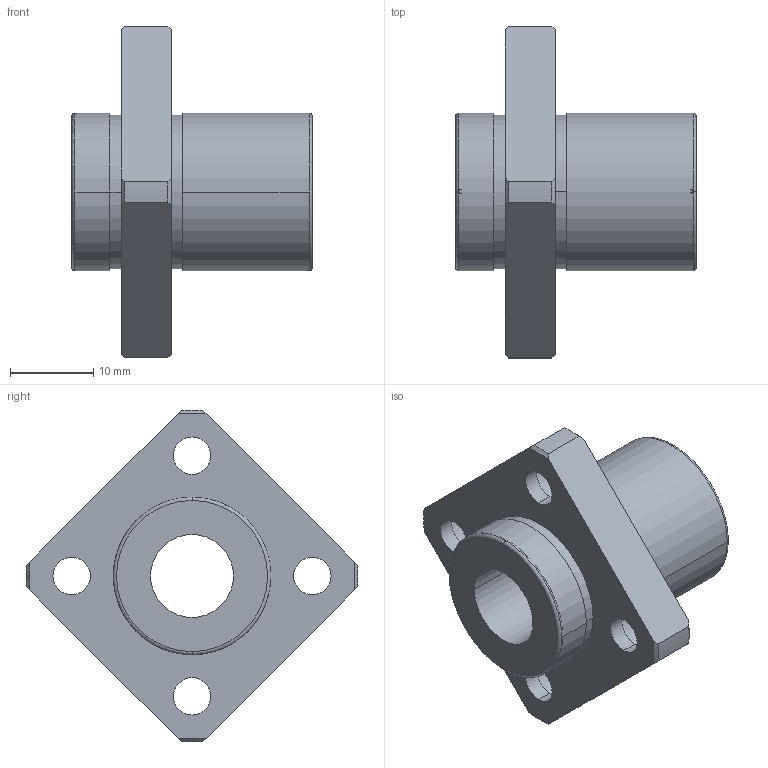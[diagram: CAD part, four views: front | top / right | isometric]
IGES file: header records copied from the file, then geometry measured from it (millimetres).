
Start section: 3D InterOp IGES (Version 21 0 1), Spatial Corp. Copyright (c) 1999-2007.
Global section: file name: NFIS-10VUU.igs; native system: Spatial Corp.; preprocessor: 3D InterOp GENERIC/IGES 3.0; author: Noname; organization: Noname; date: 20220308.112351; units: millimetre
Bounding box: 29 x 40 x 39.99 mm (x, y, z)
Surface area: 5431.5 mm2 (no closed solid volume)
Topology: 0 solids, 0 shells, 59 faces, 298 edges, 294 vertices
Faces by surface type: revolution 45, extrusion 14
